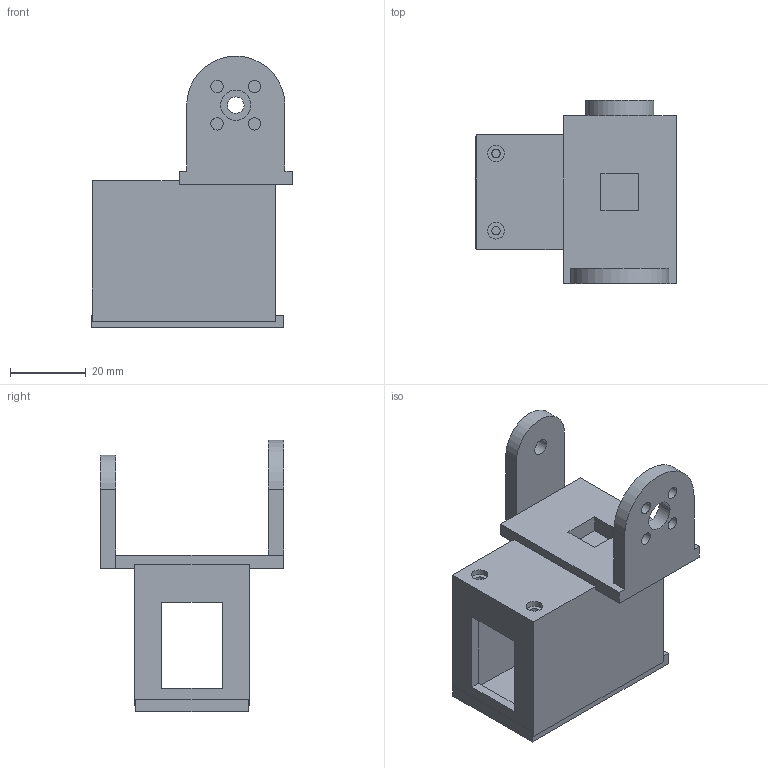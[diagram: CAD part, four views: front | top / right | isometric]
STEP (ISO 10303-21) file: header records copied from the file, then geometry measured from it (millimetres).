
FILE_DESCRIPTION(('Open CASCADE Model'),'2;1');
FILE_NAME('Open CASCADE Shape Model','2026-10-02T23:27:41',('Author'),( 'Open CASCADE'),'Open CASCADE STEP processor 7.9','Open CASCADE 7.9' ,'Unknown');
FILE_SCHEMA(('AUTOMOTIVE_DESIGN { 1 0 10303 214 1 1 1 1 }'));
Length unit declared in the file: millimetre
Products named in the file (1): Open CASCADE STEP translator 7.9 8
Bounding box: 53.2 x 48.5 x 72 mm (x, y, z)
Volume: 24213.3 mm3; surface area: 19179.7 mm2
Topology: 1 solids, 1 shells, 81 faces, 222 edges, 146 vertices
Faces by surface type: plane 62, cylinder 19
Full cylindrical faces by diameter (mm): 2.2 x4, 3.3 x4, 4.4 x5, 8 x1, 13.6 x1, 23 x1
Entity records: 5548 total; most frequent: CARTESIAN_POINT 1150, DIRECTION 790, LINE 522, VECTOR 522, ORIENTED_EDGE 444, PCURVE 444, DEFINITIONAL_REPRESENTATION 444, EDGE_CURVE 222
